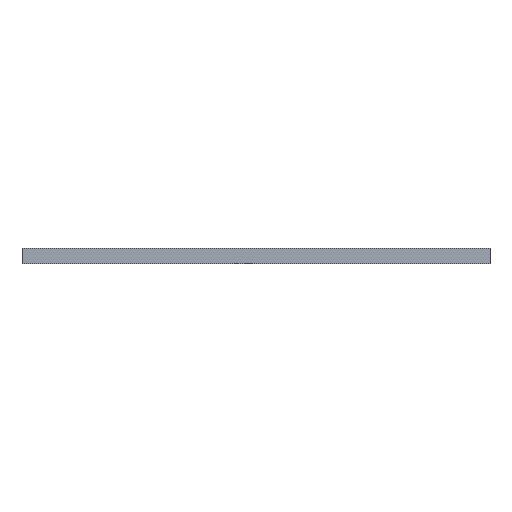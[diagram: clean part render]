
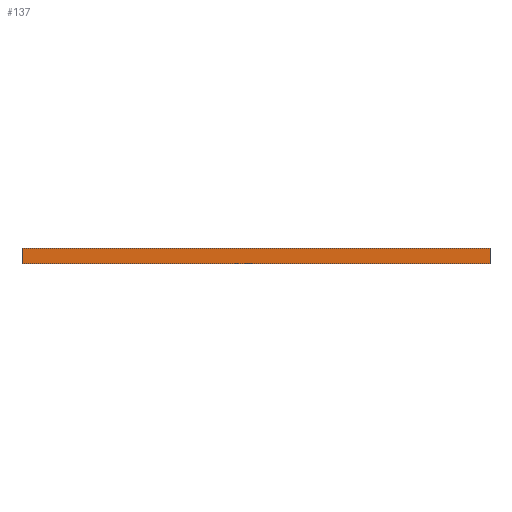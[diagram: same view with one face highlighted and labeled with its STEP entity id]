
A CAD part, front view. The second image highlights one B-rep face of the part: STEP entity #137.
In plain terms, the highlighted planar face has unit normal (0, -1, 0).
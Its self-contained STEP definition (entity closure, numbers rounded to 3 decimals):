
#21 = EDGE_CURVE('',#22,#24,#26,.T.);
#22 = VERTEX_POINT('',#23);
#23 = CARTESIAN_POINT('',(0.,0.,0.));
#24 = VERTEX_POINT('',#25);
#25 = CARTESIAN_POINT('',(0.,0.,1.6));
#26 = SURFACE_CURVE('',#27,(#31,#43),.PCURVE_S1.);
#27 = LINE('',#28,#29);
#28 = CARTESIAN_POINT('',(0.,0.,0.));
#29 = VECTOR('',#30,1.);
#30 = DIRECTION('',(0.,0.,1.));
#31 = PCURVE('',#32,#37);
#32 = PLANE('',#33);
#33 = AXIS2_PLACEMENT_3D('',#34,#35,#36);
#34 = CARTESIAN_POINT('',(0.,0.,0.));
#35 = DIRECTION('',(1.,0.,0.));
#36 = DIRECTION('',(0.,0.,1.));
#37 = DEFINITIONAL_REPRESENTATION('',(#38),#42);
#38 = LINE('',#39,#40);
#39 = CARTESIAN_POINT('',(0.,0.));
#40 = VECTOR('',#41,1.);
#41 = DIRECTION('',(1.,0.));
#42 = ( GEOMETRIC_REPRESENTATION_CONTEXT(2) 
PARAMETRIC_REPRESENTATION_CONTEXT() REPRESENTATION_CONTEXT('2D SPACE',''
  ) );
#43 = PCURVE('',#44,#49);
#44 = PLANE('',#45);
#45 = AXIS2_PLACEMENT_3D('',#46,#47,#48);
#46 = CARTESIAN_POINT('',(0.,0.,0.));
#47 = DIRECTION('',(0.,1.,0.));
#48 = DIRECTION('',(0.,0.,1.));
#49 = DEFINITIONAL_REPRESENTATION('',(#50),#54);
#50 = LINE('',#51,#52);
#51 = CARTESIAN_POINT('',(0.,0.));
#52 = VECTOR('',#53,1.);
#53 = DIRECTION('',(1.,0.));
#54 = ( GEOMETRIC_REPRESENTATION_CONTEXT(2) 
PARAMETRIC_REPRESENTATION_CONTEXT() REPRESENTATION_CONTEXT('2D SPACE',''
  ) );
#72 = PLANE('',#73);
#73 = AXIS2_PLACEMENT_3D('',#74,#75,#76);
#74 = CARTESIAN_POINT('',(0.,0.,0.));
#75 = DIRECTION('',(0.,0.,1.));
#76 = DIRECTION('',(1.,0.,0.));
#126 = PLANE('',#127);
#127 = AXIS2_PLACEMENT_3D('',#128,#129,#130);
#128 = CARTESIAN_POINT('',(0.,0.,1.6));
#129 = DIRECTION('',(0.,0.,1.));
#130 = DIRECTION('',(1.,0.,0.));
#137 = ADVANCED_FACE('',(#138),#44,.F.);
#138 = FACE_BOUND('',#139,.F.);
#139 = EDGE_LOOP('',(#140,#163,#164,#187));
#140 = ORIENTED_EDGE('',*,*,#141,.F.);
#141 = EDGE_CURVE('',#22,#142,#144,.T.);
#142 = VERTEX_POINT('',#143);
#143 = CARTESIAN_POINT('',(48.,0.,0.));
#144 = SURFACE_CURVE('',#145,(#149,#156),.PCURVE_S1.);
#145 = LINE('',#146,#147);
#146 = CARTESIAN_POINT('',(0.,0.,0.));
#147 = VECTOR('',#148,1.);
#148 = DIRECTION('',(1.,0.,0.));
#149 = PCURVE('',#44,#150);
#150 = DEFINITIONAL_REPRESENTATION('',(#151),#155);
#151 = LINE('',#152,#153);
#152 = CARTESIAN_POINT('',(0.,0.));
#153 = VECTOR('',#154,1.);
#154 = DIRECTION('',(0.,1.));
#155 = ( GEOMETRIC_REPRESENTATION_CONTEXT(2) 
PARAMETRIC_REPRESENTATION_CONTEXT() REPRESENTATION_CONTEXT('2D SPACE',''
  ) );
#156 = PCURVE('',#72,#157);
#157 = DEFINITIONAL_REPRESENTATION('',(#158),#162);
#158 = LINE('',#159,#160);
#159 = CARTESIAN_POINT('',(0.,0.));
#160 = VECTOR('',#161,1.);
#161 = DIRECTION('',(1.,0.));
#162 = ( GEOMETRIC_REPRESENTATION_CONTEXT(2) 
PARAMETRIC_REPRESENTATION_CONTEXT() REPRESENTATION_CONTEXT('2D SPACE',''
  ) );
#163 = ORIENTED_EDGE('',*,*,#21,.T.);
#164 = ORIENTED_EDGE('',*,*,#165,.T.);
#165 = EDGE_CURVE('',#24,#166,#168,.T.);
#166 = VERTEX_POINT('',#167);
#167 = CARTESIAN_POINT('',(48.,0.,1.6));
#168 = SURFACE_CURVE('',#169,(#173,#180),.PCURVE_S1.);
#169 = LINE('',#170,#171);
#170 = CARTESIAN_POINT('',(0.,0.,1.6));
#171 = VECTOR('',#172,1.);
#172 = DIRECTION('',(1.,0.,0.));
#173 = PCURVE('',#44,#174);
#174 = DEFINITIONAL_REPRESENTATION('',(#175),#179);
#175 = LINE('',#176,#177);
#176 = CARTESIAN_POINT('',(1.6,0.));
#177 = VECTOR('',#178,1.);
#178 = DIRECTION('',(0.,1.));
#179 = ( GEOMETRIC_REPRESENTATION_CONTEXT(2) 
PARAMETRIC_REPRESENTATION_CONTEXT() REPRESENTATION_CONTEXT('2D SPACE',''
  ) );
#180 = PCURVE('',#126,#181);
#181 = DEFINITIONAL_REPRESENTATION('',(#182),#186);
#182 = LINE('',#183,#184);
#183 = CARTESIAN_POINT('',(0.,0.));
#184 = VECTOR('',#185,1.);
#185 = DIRECTION('',(1.,0.));
#186 = ( GEOMETRIC_REPRESENTATION_CONTEXT(2) 
PARAMETRIC_REPRESENTATION_CONTEXT() REPRESENTATION_CONTEXT('2D SPACE',''
  ) );
#187 = ORIENTED_EDGE('',*,*,#188,.F.);
#188 = EDGE_CURVE('',#142,#166,#189,.T.);
#189 = SURFACE_CURVE('',#190,(#194,#201),.PCURVE_S1.);
#190 = LINE('',#191,#192);
#191 = CARTESIAN_POINT('',(48.,0.,0.));
#192 = VECTOR('',#193,1.);
#193 = DIRECTION('',(0.,0.,1.));
#194 = PCURVE('',#44,#195);
#195 = DEFINITIONAL_REPRESENTATION('',(#196),#200);
#196 = LINE('',#197,#198);
#197 = CARTESIAN_POINT('',(0.,48.));
#198 = VECTOR('',#199,1.);
#199 = DIRECTION('',(1.,0.));
#200 = ( GEOMETRIC_REPRESENTATION_CONTEXT(2) 
PARAMETRIC_REPRESENTATION_CONTEXT() REPRESENTATION_CONTEXT('2D SPACE',''
  ) );
#201 = PCURVE('',#202,#207);
#202 = PLANE('',#203);
#203 = AXIS2_PLACEMENT_3D('',#204,#205,#206);
#204 = CARTESIAN_POINT('',(48.,0.,0.));
#205 = DIRECTION('',(1.,0.,0.));
#206 = DIRECTION('',(0.,0.,1.));
#207 = DEFINITIONAL_REPRESENTATION('',(#208),#212);
#208 = LINE('',#209,#210);
#209 = CARTESIAN_POINT('',(0.,0.));
#210 = VECTOR('',#211,1.);
#211 = DIRECTION('',(1.,0.));
#212 = ( GEOMETRIC_REPRESENTATION_CONTEXT(2) 
PARAMETRIC_REPRESENTATION_CONTEXT() REPRESENTATION_CONTEXT('2D SPACE',''
  ) );
